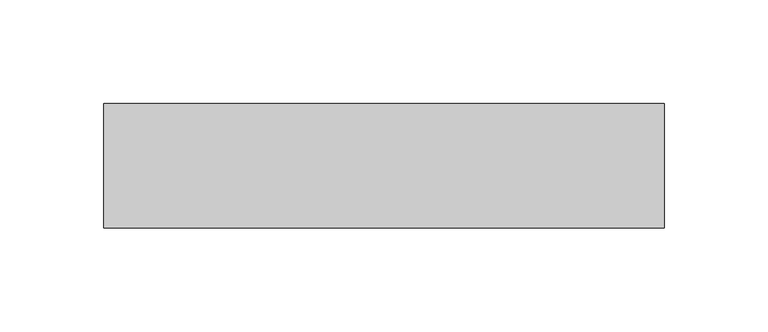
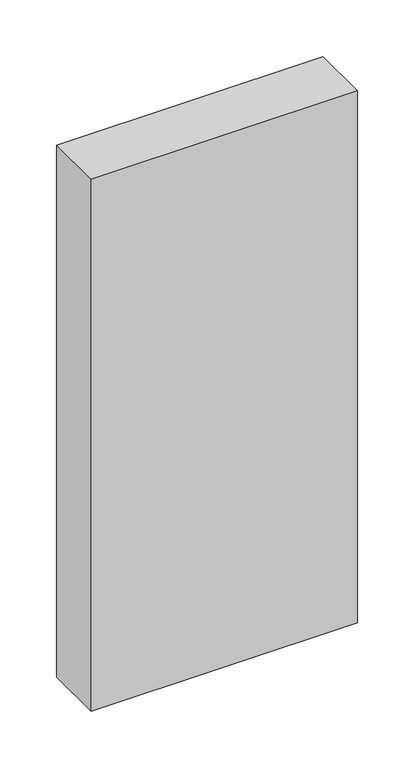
"""IFC4 building model written with IfcOpenShell, lengths in millimetres: plate geometry, Системная панель : Алюкобонд серый."""

from ifc_helpers import new_model, si_unit, origin, origin_with_axes, place, context, project, spatial, polyline, outline, extrude, source, transform, mapped, element, save


def plate_b6fb647a(model_context):
    return source(origin(), model_context, "Body", "SweptSolid", [
        extrude(outline(polyline([(135.0, -10.5), (-135.0, -10.5), (-135.0, 49.5), (135.0, 49.5), (135.0, -10.5)])), origin_with_axes(), (0.0, 0.0, 1.0), 570.0),
    ])


if __name__ == "__main__":
    model = new_model("IFC4")
    model_context = context("Model", 3, world=origin())
    ifc_project = project(units=[si_unit("LENGTHUNIT", "METRE", prefix="MILLI")], contexts=[model_context])
    site = spatial("IfcSite", under=ifc_project)
    building = spatial("IfcBuilding", under=site)
    placement = place(None, origin())
    plate_shape = plate_b6fb647a(model_context)
    element("IfcPlate", 1, ObjectType="Системная панель : Алюкобонд серый", at=placement, inside=building, context=model_context, shape_type="MappedRepresentation", body=[
        mapped(plate_shape, transform((0.0, 0.0, 0.0), x_axis=(1.0, 0.0, 0.0), y_axis=(0.0, 1.0, 0.0), z_axis=(0.0, 0.0, 1.0))),
    ])
    save(model, "model.ifc")
